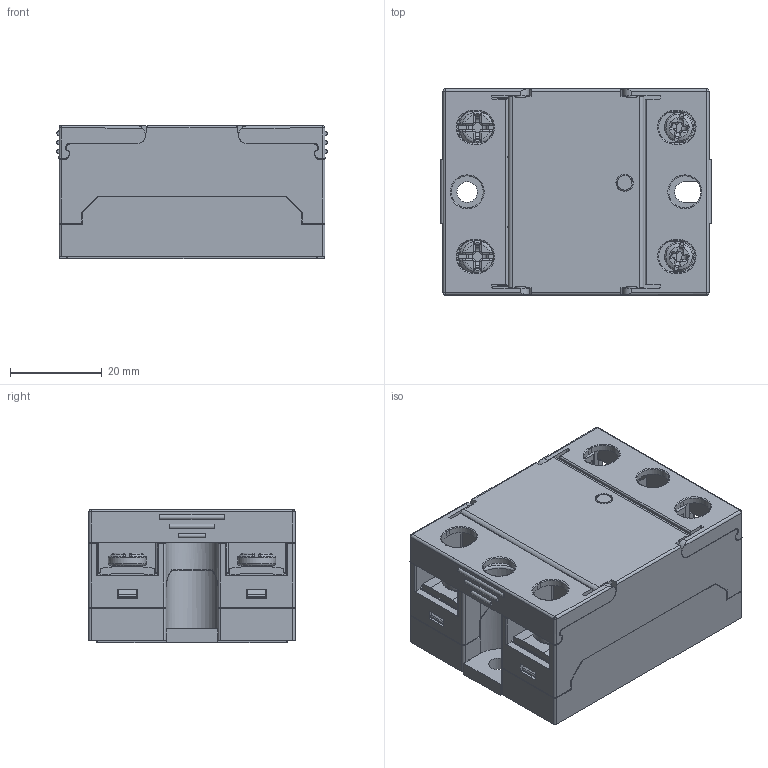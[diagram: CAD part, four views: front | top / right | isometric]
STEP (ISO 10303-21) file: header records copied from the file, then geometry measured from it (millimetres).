
FILE_DESCRIPTION(/* description */ ('Unknown'),/* implementation_level */ '2;1');
FILE_NAME(/* name */ '77x1',/* time_stamp */ '2024-01-19T10:51:54+01:00',/* author */ ('Unknown'),/* organization */ ('Unknown'),/* preprocessor_version */ 'ST-DEVELOPER v18.102',/* originating_system */ 'Solid Edge',/* authorisation */ 'Unknown');
FILE_SCHEMA (('AUTOMOTIVE_DESIGN {1 0 10303 214 3 1 1}'));
Length unit declared in the file: millimetre
Products named in the file (1): 77x1
Bounding box: 59.04 x 45 x 29.05 mm (x, y, z)
Surface area: 25226.4 mm2 (no closed solid volume)
Topology: 0 solids, 24 shells, 859 faces, 3071 edges, 2213 vertices
Faces by surface type: plane 449, cylinder 307, torus 68, bspline 20, cone 12, sphere 3
Full cylindrical faces by diameter (mm): 2 x3, 2.1 x4, 3 x2, 3.6 x1, 3.8 x1, 4 x2, 4.5 x1, 6.3 x2, 7 x2, 8.3 x2
Entity records: 33892 total; most frequent: CARTESIAN_POINT 8349, DIRECTION 5091, ORIENTED_EDGE 4957, EDGE_CURVE 3016, VERTEX_POINT 2198, LINE 1947, VECTOR 1947, AXIS2_PLACEMENT_3D 1572
